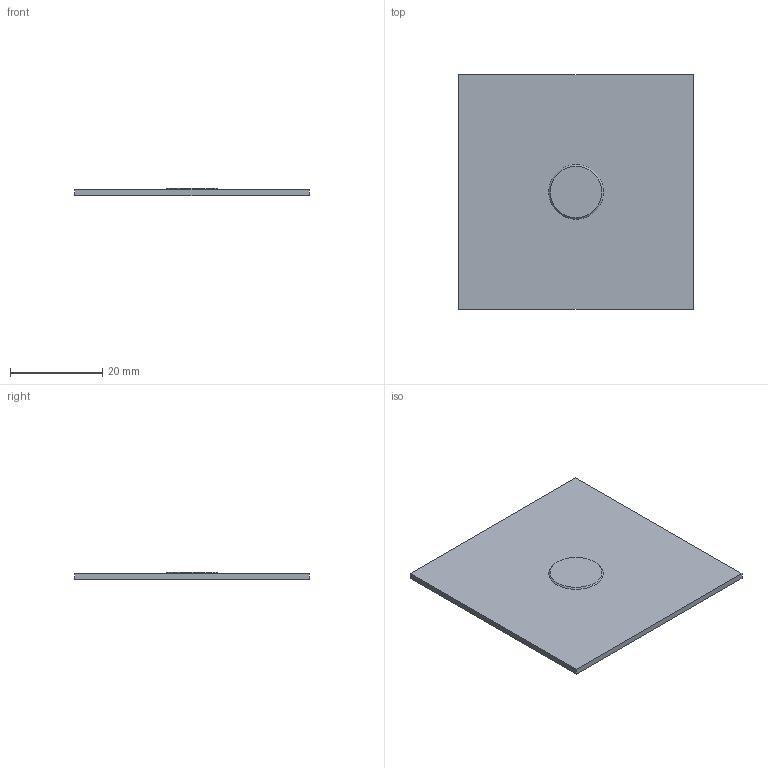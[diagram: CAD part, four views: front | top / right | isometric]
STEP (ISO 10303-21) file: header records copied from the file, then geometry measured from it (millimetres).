
FILE_DESCRIPTION(('PART XYZ REV A'),'1');
FILE_NAME('EF12','2012-03-30T15:09:43',('ERIC'),('TRIAX'),'Spatial Interop R21 SP3','Kubotek KeyCreator 2011 V10.5.0 (24766)','CHAZ');
FILE_SCHEMA(('CONFIG_CONTROL_DESIGN'));
Length unit declared in the file: inch
Products named in the file (1): 1
Bounding box: 50.81 x 50.81 x 1.57 mm (x, y, z)
Volume: 3284.3 mm3; surface area: 5430.2 mm2
Topology: 1 solids, 1 shells, 10 faces, 18 edges, 12 vertices
Faces by surface type: plane 8, cone 2
Entity records: 280 total; most frequent: DIRECTION 42, CARTESIAN_POINT 39, ORIENTED_EDGE 32, EDGE_CURVE 16, AXIS2_PLACEMENT_3D 15, EDGE_LOOP 14, VERTEX_POINT 12, LINE 12
